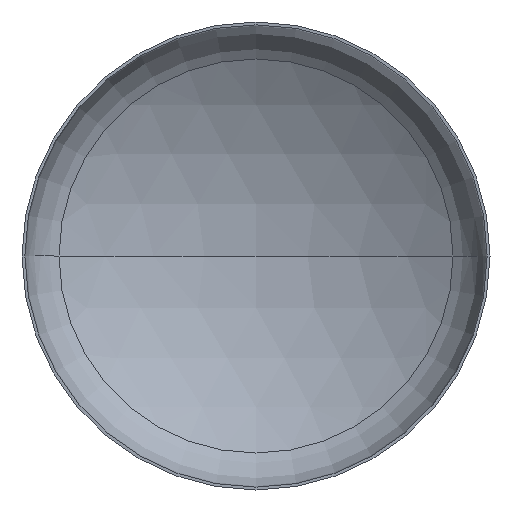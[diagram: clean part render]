
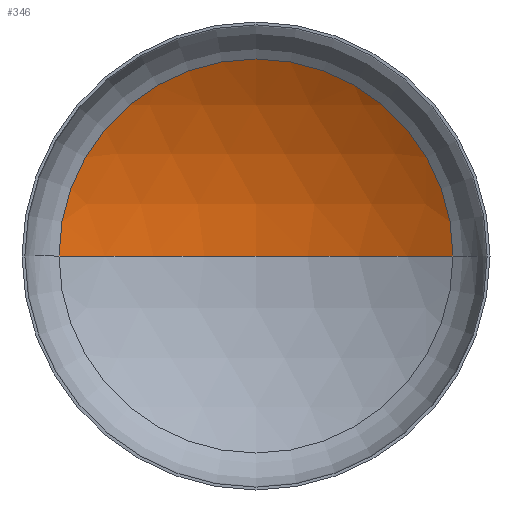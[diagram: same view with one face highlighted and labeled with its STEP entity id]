
A CAD part, front view. The second image highlights one B-rep face of the part: STEP entity #346.
In plain terms, the highlighted spherical face has radius 2080 mm.
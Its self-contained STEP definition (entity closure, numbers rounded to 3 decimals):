
#6 = AXIS2_PLACEMENT_3D ( 'NONE', #110, #117, #55 ) ;
#13 = AXIS2_PLACEMENT_3D ( 'NONE', #321, #154, #159 ) ;
#16 = AXIS2_PLACEMENT_3D ( 'NONE', #32, #163, #138 ) ;
#17 = AXIS2_PLACEMENT_3D ( 'NONE', #219, #379, #165 ) ;
#18 = EDGE_LOOP ( 'NONE', ( #228, #112, #79 ) ) ;
#32 = CARTESIAN_POINT ( 'NONE',  ( 0., -1373.616, 0. ) ) ;
#55 = DIRECTION ( 'NONE',  ( 1., 0., 0. ) ) ;
#65 = VERTEX_POINT ( 'NONE', #247 ) ;
#77 = VERTEX_POINT ( 'NONE', #255 ) ;
#79 = ORIENTED_EDGE ( 'NONE', *, *, #369, .T. ) ;
#110 = CARTESIAN_POINT ( 'NONE',  ( 0., 395.147, 0. ) ) ;
#112 = ORIENTED_EDGE ( 'NONE', *, *, #350, .T. ) ;
#117 = DIRECTION ( 'NONE',  ( 0., -1., 0. ) ) ;
#138 = DIRECTION ( 'NONE',  ( -1., 0., 0. ) ) ;
#154 = DIRECTION ( 'NONE',  ( 0., 0., 1. ) ) ;
#159 = DIRECTION ( 'NONE',  ( 1., 0., 0. ) ) ;
#163 = DIRECTION ( 'NONE',  ( 0., 0., -1. ) ) ;
#165 = DIRECTION ( 'NONE',  ( -1., 0., 0. ) ) ;
#175 = CARTESIAN_POINT ( 'NONE',  ( 0., 706.384, 0. ) ) ;
#219 = CARTESIAN_POINT ( 'NONE',  ( 0., -1373.616, 0. ) ) ;
#228 = ORIENTED_EDGE ( 'NONE', *, *, #354, .F. ) ;
#230 = CIRCLE ( 'NONE', #17, 2080. ) ;
#247 = CARTESIAN_POINT ( 'NONE',  ( 1094.476, 395.147, 0. ) ) ;
#255 = CARTESIAN_POINT ( 'NONE',  ( -1094.476, 395.147, 0. ) ) ;
#298 = CIRCLE ( 'NONE', #13, 2080. ) ;
#321 = CARTESIAN_POINT ( 'NONE',  ( 0., -1373.616, 0. ) ) ;
#343 = VERTEX_POINT ( 'NONE', #175 ) ;
#346 = ADVANCED_FACE ( 'NONE', ( #355 ), #409, .F. ) ;
#350 = EDGE_CURVE ( 'NONE', #343, #65, #230, .T. ) ;
#354 = EDGE_CURVE ( 'NONE', #343, #77, #298, .T. ) ;
#355 = FACE_OUTER_BOUND ( 'NONE', #18, .T. ) ;
#369 = EDGE_CURVE ( 'NONE', #65, #77, #404, .T. ) ;
#379 = DIRECTION ( 'NONE',  ( 0., 0., -1. ) ) ;
#404 = CIRCLE ( 'NONE', #6, 1094.476 ) ;
#409 = SPHERICAL_SURFACE ( 'NONE', #16, 2080. ) ;
